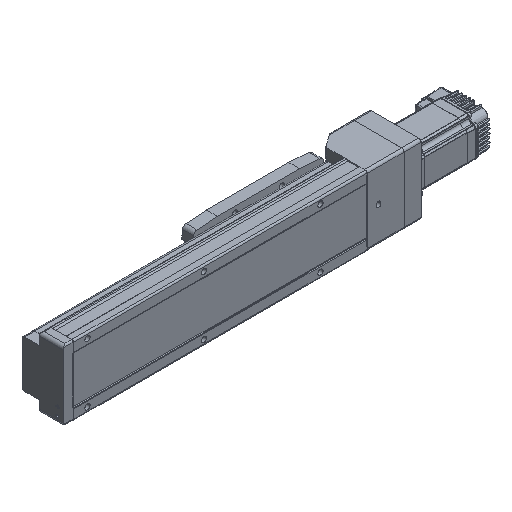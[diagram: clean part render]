
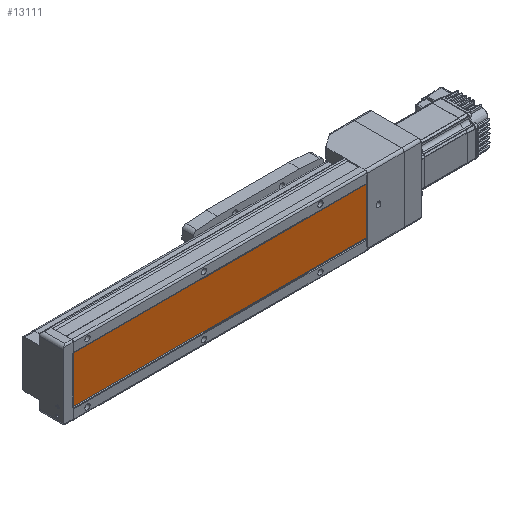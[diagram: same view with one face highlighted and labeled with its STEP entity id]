
A CAD part, isometric view. The second image highlights one B-rep face of the part: STEP entity #13111.
In plain terms, the highlighted planar face has unit normal (0, -1, 0).
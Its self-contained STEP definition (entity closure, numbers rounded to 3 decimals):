
#1999 = LINE ( 'NONE', #6636, #5040 ) ;
#2798 = VERTEX_POINT ( 'NONE', #37608 ) ;
#5040 = VECTOR ( 'NONE', #33796, 1000. ) ;
#5595 = ORIENTED_EDGE ( 'NONE', *, *, #43096, .F. ) ;
#6636 = CARTESIAN_POINT ( 'NONE',  ( 29.843, 1., 1378. ) ) ;
#8992 = DIRECTION ( 'NONE',  ( 0., 0., -1. ) ) ;
#9630 = AXIS2_PLACEMENT_3D ( 'NONE', #29973, #21330, #47849 ) ;
#11043 = CARTESIAN_POINT ( 'NONE',  ( 29.843, 1., 378. ) ) ;
#12381 = FACE_OUTER_BOUND ( 'NONE', #49838, .T. ) ;
#13111 = ADVANCED_FACE ( 'NONE', ( #12381 ), #39192, .F. ) ;
#13275 = ORIENTED_EDGE ( 'NONE', *, *, #37779, .F. ) ;
#15035 = LINE ( 'NONE', #41844, #27190 ) ;
#15090 = CARTESIAN_POINT ( 'NONE',  ( -29.843, 1., 378. ) ) ;
#15327 = DIRECTION ( 'NONE',  ( 1., 0., 0. ) ) ;
#21330 = DIRECTION ( 'NONE',  ( 0., 1., 0. ) ) ;
#25510 = CARTESIAN_POINT ( 'NONE',  ( -29.843, 1., 1378. ) ) ;
#27190 = VECTOR ( 'NONE', #15327, 1000. ) ;
#29355 = DIRECTION ( 'NONE',  ( 1., 0., 0. ) ) ;
#29973 = CARTESIAN_POINT ( 'NONE',  ( -29.843, 1., 1378. ) ) ;
#30826 = ORIENTED_EDGE ( 'NONE', *, *, #52754, .T. ) ;
#31788 = VECTOR ( 'NONE', #29355, 1000. ) ;
#32997 = VERTEX_POINT ( 'NONE', #53494 ) ;
#33796 = DIRECTION ( 'NONE',  ( 0., 0., -1. ) ) ;
#34209 = LINE ( 'NONE', #56484, #31788 ) ;
#37608 = CARTESIAN_POINT ( 'NONE',  ( 29.843, 1., 0. ) ) ;
#37779 = EDGE_CURVE ( 'NONE', #49889, #38387, #15035, .T. ) ;
#38387 = VERTEX_POINT ( 'NONE', #11043 ) ;
#39192 = PLANE ( 'NONE',  #9630 ) ;
#39324 = LINE ( 'NONE', #25510, #42217 ) ;
#41844 = CARTESIAN_POINT ( 'NONE',  ( -29.843, 1., 378. ) ) ;
#42217 = VECTOR ( 'NONE', #8992, 1000. ) ;
#43096 = EDGE_CURVE ( 'NONE', #38387, #2798, #1999, .T. ) ;
#47849 = DIRECTION ( 'NONE',  ( 0., 0., 1. ) ) ;
#49838 = EDGE_LOOP ( 'NONE', ( #13275, #54979, #30826, #5595 ) ) ;
#49889 = VERTEX_POINT ( 'NONE', #15090 ) ;
#52754 = EDGE_CURVE ( 'NONE', #32997, #2798, #34209, .T. ) ;
#53494 = CARTESIAN_POINT ( 'NONE',  ( -29.843, 1., 0. ) ) ;
#54979 = ORIENTED_EDGE ( 'NONE', *, *, #55870, .T. ) ;
#55870 = EDGE_CURVE ( 'NONE', #49889, #32997, #39324, .T. ) ;
#56484 = CARTESIAN_POINT ( 'NONE',  ( -29.843, 1., 0. ) ) ;
